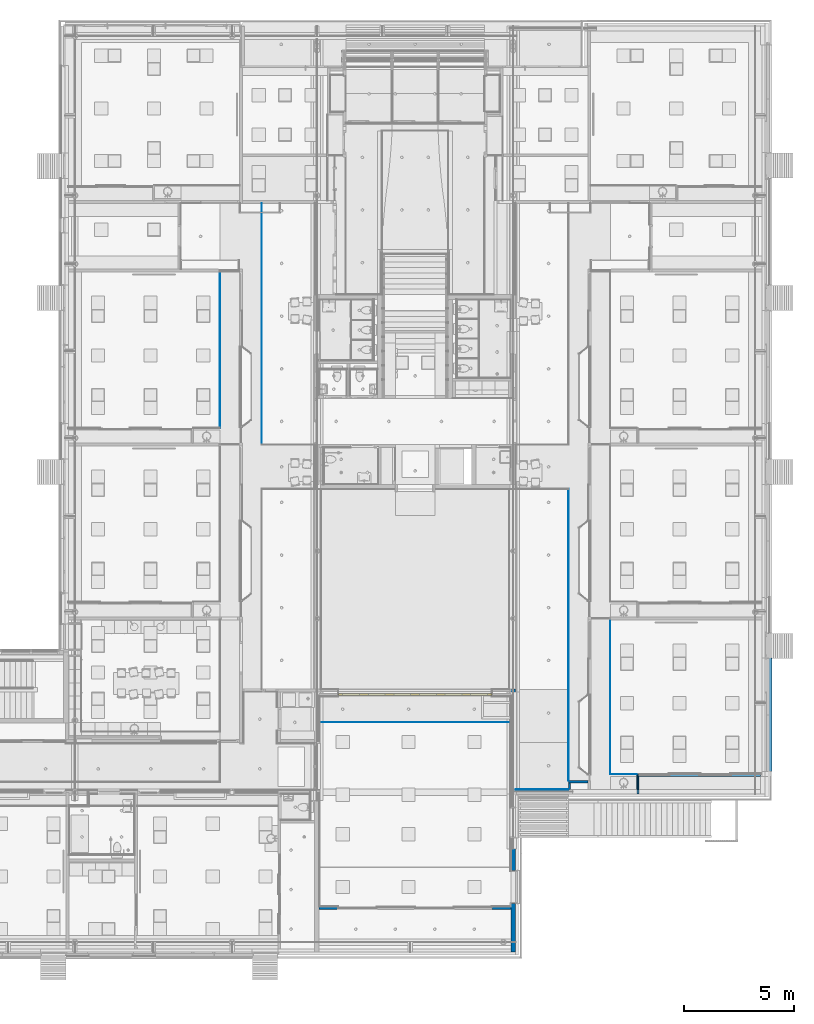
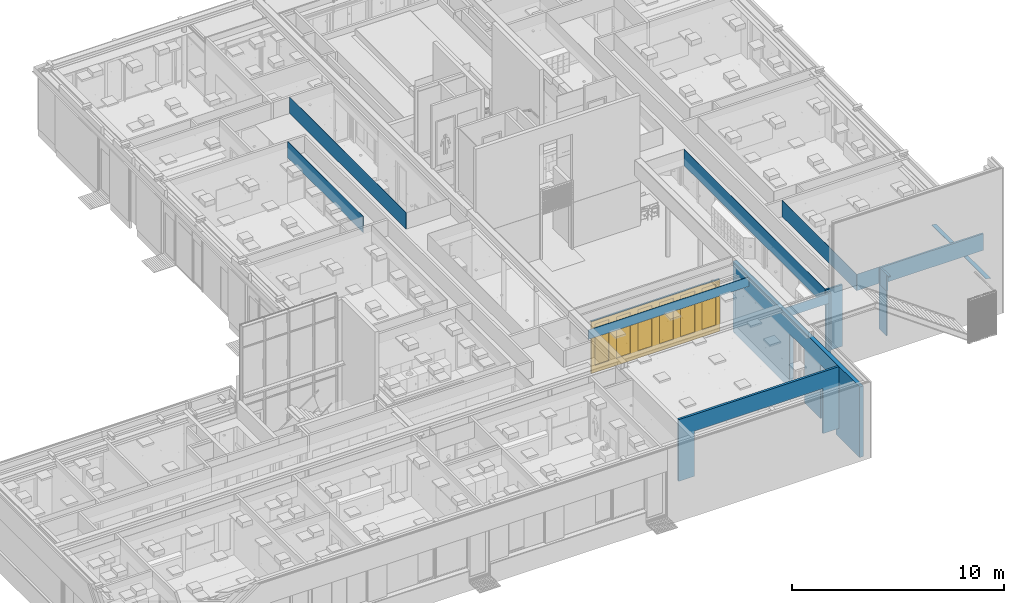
# One storey, part 74 of 347: 16 walls, 1 door, 4 openings.
"""IFC2X3 building model written with IfcOpenShell, lengths in millimetres."""

from ifc_helpers import new_model, entity, si_unit, converted_unit, derived_unit, money_unit, direction, frame, origin_with_axes, place, context, subcontext, project, spatial, open_shell, faceted_brep, surface_model, material, type_object, element, fill, save


model = new_model("IFC2X3")

# Units and contexts
model_context = context("Model", 3, precision=0.01, world=origin_with_axes(), true_north=direction((0.0, 1.0)))
plan_context = context("Plan", 3, precision=0.01, world=origin_with_axes(), true_north=direction((0.0, 1.0)))
body_context = subcontext(model_context, "Body", "Model", "MODEL_VIEW")
ifc_project = project(units=[si_unit("LENGTHUNIT", "METRE", prefix="MILLI"), si_unit("AREAUNIT", "SQUARE_METRE"), si_unit("VOLUMEUNIT", "CUBIC_METRE"), converted_unit("PLANEANGLEUNIT", "DEGREE", entity("IfcPlaneAngleMeasure", 0.0174532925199), si_unit("PLANEANGLEUNIT", "RADIAN"), dimensions=[0, 0, 0, 0, 0, 0, 0]), money_unit("EUR"), converted_unit("TIMEUNIT", "Year", entity("IfcTimeMeasure", 31556926.0), si_unit("TIMEUNIT", "SECOND"), dimensions=[0, 0, 1, 0, 0, 0, 0]), si_unit("MASSUNIT", "GRAM", prefix="KILO"), si_unit("THERMODYNAMICTEMPERATUREUNIT", "DEGREE_CELSIUS"), si_unit("LUMINOUSINTENSITYUNIT", "LUMEN"), si_unit("ENERGYUNIT", "JOULE", prefix="MEGA"), derived_unit("THERMALCONDUCTANCEUNIT", [(si_unit("POWERUNIT", "WATT"), 1), (si_unit("LENGTHUNIT", "METRE"), -1), (si_unit("THERMODYNAMICTEMPERATUREUNIT", "KELVIN"), -1)]), derived_unit("SPECIFICHEATCAPACITYUNIT", [(si_unit("ENERGYUNIT", "JOULE"), 1), (si_unit("MASSUNIT", "GRAM", prefix="KILO"), -1), (si_unit("THERMODYNAMICTEMPERATUREUNIT", "KELVIN"), -1)]), derived_unit("MASSDENSITYUNIT", [(si_unit("MASSUNIT", "GRAM", prefix="KILO"), 1), (si_unit("VOLUMEUNIT", "CUBIC_METRE"), -1)])], contexts=[model_context, plan_context])

# Site, building, storey
site_placement = place(None, origin_with_axes())
site = spatial("IfcSite", under=ifc_project, at=site_placement, Name="Site", CompositionType="ELEMENT")
building_placement = place(site_placement, origin_with_axes())
building = spatial("IfcBuilding", under=site, at=building_placement, Name="Naam gebouw", CompositionType="ELEMENT")
storey_placement = place(building_placement, origin_with_axes())
storey = spatial("IfcBuildingStorey", under=building, at=storey_placement, Name="begane grond", CompositionType="ELEMENT", Elevation=0.0)

# Wall, openings
ifc_material_1 = material(Name="Beton gewapend prefab wand")
wall_type_1 = type_object("IfcWallType", Name="Betonwand 200 210", PredefinedType="NOTDEFINED")
wall_1_placement = place(storey_placement, frame((44445.0012766, 16824.9999902, -510.000001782), z_axis=(0.0, 0.0, 1.0), x_axis=(-8.90627332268e-08, -1.0, 0.0)))
wall_1 = element("IfcWall", 1, at=wall_1_placement, inside=storey, type_object=wall_type_1, material=ifc_material_1, Name="21_GF 125 ECO DGS/2.75.3A", context=body_context, shape_type="Brep", body=[
    faceted_brep([(9759.99043503, 209.999809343, 440.000001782), (9759.99043503, 209.999990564, 3110.0), (8259.99043503, 209.99985697, 3110.0), (8259.99043503, 209.999833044, 440.000001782), (8259.99038294, 209.999799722, 1.22928311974e-06), (6774.99990837, 209.999667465, 1.00828123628e-06), (6774.99997146, 209.999724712, 440.000001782), (6774.99997146, 209.999491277, 3110.0), (5374.99997146, 209.999366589, 3110.0), (5374.99997146, 209.999308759, 440.000001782), (5375.00006081, 209.999366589, 7.99927901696e-07), (-1.87031723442e-05, 210.0, 0.0), (-1.87031723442e-05, 210.0, 510.000001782), (-0.000973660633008, 210.0, 4070.00000178), (11974.9999691, 210.001066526, 4069.99997764), (11974.9999715, 210.001066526, 1.78216530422e-06), (9759.99045873, 209.999757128, 1.45251966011e-06), (9759.99045373, 0.000869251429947, 440.000001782), (9759.99045373, 0.000869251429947, 3110.0), (8259.99045373, 0.000735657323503, 3110.0), (8259.99045373, 0.000735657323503, 440.000001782), (8259.99040165, 0.000735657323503, 1.22928311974e-06), (6774.99992708, 0.000603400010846, 1.00828123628e-06), (6774.99999016, 0.000603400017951, 440.000001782), (6774.99999016, 0.000603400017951, 3110.0), (5374.99999016, 0.000478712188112, 3110.0), (5374.99999016, 0.000478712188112, 440.000001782), (5374.99955095, 0.000478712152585, 7.99927901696e-07), (0.0, 0.0, 0.0), (0.0, 0.0, 510.000001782), (-0.000954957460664, 0.0, 4070.00000178), (11974.9999878, 0.00106652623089, 4069.99997764), (11974.9999902, 0.00106652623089, 1.78216530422e-06), (9759.99047744, 0.000869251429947, 1.45251966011e-06)], [[[0, 1, 2, 3, 4, 5, 6, 7, 8, 9, 10, 11, 12, 13, 14, 15, 16]], [[1, 0, 17, 18]], [[2, 1, 18, 19]], [[3, 2, 19, 20]], [[3, 20, 21, 4]], [[21, 22, 5, 4]], [[6, 5, 22, 23]], [[6, 23, 24, 7]], [[7, 24, 25, 8]], [[8, 25, 26, 9]], [[26, 27, 10, 9]], [[27, 28, 11, 10]], [[29, 30, 13, 12, 11, 28]], [[31, 14, 13, 30]], [[14, 31, 32, 15]], [[16, 15, 32, 33]], [[17, 0, 16, 33]], [[18, 17, 33, 32, 31, 30, 29, 28, 27, 26, 25, 24, 23, 22, 21, 20, 19]]]),
])
opening_1_placement = place(wall_1_placement, frame((6074.99999016, 0.0, 1.78216508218e-06), z_axis=(0.0, 0.0, 1.0), x_axis=(1.0, 0.0, 0.0)))
element("IfcOpeningElement", 2, at=opening_1_placement, cuts=wall_1, Name="32_-", context=body_context, shape_type="Brep", body=[
    faceted_brep([(-699.999962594, -420.000062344, -1.78216508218e-06), (-699.999962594, -420.000062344, 3109.99999822), (-700.000018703, 209.999937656, 3109.99999822), (-700.000018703, 209.999937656, -1.78216508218e-06), (700.000037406, -419.999937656, -1.78216508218e-06), (700.000037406, -419.999937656, 3109.99999822), (699.999981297, 210.000062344, 3109.99999822), (699.999981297, 210.000062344, -1.78216508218e-06)], [[[0, 1, 2, 3]], [[0, 4, 5, 1]], [[1, 5, 6, 2]], [[3, 2, 6, 7]], [[4, 0, 3, 7]], [[5, 4, 7, 6]]]),
])
opening_2_placement = place(wall_1_placement, frame((9009.99045373, 0.0, 1.78216508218e-06), z_axis=(0.0, 0.0, 1.0), x_axis=(1.0, 0.0, 0.0)))
element("IfcOpeningElement", 3, at=opening_2_placement, cuts=wall_1, Name="32_-", context=body_context, shape_type="Brep", body=[
    faceted_brep([(-749.999962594, -420.000066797, -1.78216508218e-06), (-749.999962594, -420.000066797, 3109.99999822), (-750.000018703, 209.999933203, 3109.99999822), (-750.000018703, 209.999933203, -1.78216508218e-06), (750.000037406, -419.999933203, -1.78216508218e-06), (750.000037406, -419.999933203, 3109.99999822), (749.999981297, 210.000066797, 3109.99999822), (749.999981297, 210.000066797, -1.78216508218e-06)], [[[0, 1, 2, 3]], [[0, 4, 5, 1]], [[1, 5, 6, 2]], [[3, 2, 6, 7]], [[4, 0, 3, 7]], [[5, 4, 7, 6]]]),
])

# Wall, opening
ifc_material_2 = material(Name="ALG - LICHTE SCHEIDINGSWAND")
wall_type_2 = type_object("IfcWallType", Name="ALG LSW 125 125", PredefinedType="NOTDEFINED")
wall_2_placement = place(storey_placement, frame((35705.0, 6915.00953644, 0.0), z_axis=(0.0, 0.0, 1.0), x_axis=(1.0, 0.0, 0.0)))
wall_2 = element("IfcWall", 4, at=wall_2_placement, inside=storey, type_object=wall_type_2, material=ifc_material_2, Name="22_GF 125 ECO DGS/2.75.3A", context=body_context, shape_type="Brep", body=[
    faceted_brep([(870.0, 0.0, 2600.0), (870.0, 0.0, 0.0), (0.0, 0.0, 0.0), (0.0, 0.0, 3560.0), (8740.00127657, 0.0, 3560.0), (8740.00127657, 0.0, 0.0), (7870.0, 0.0, 0.0), (7870.0, 0.0, 2600.0), (870.0, -125.0, 2600.0), (870.0, -125.0, 0.0), (0.0, -125.0, 0.0), (0.0, -125.0, 3560.0), (8740.00127657, -125.0, 3560.0), (8740.00127657, -125.0, 0.0), (7870.0, -125.0, 0.0), (7870.0, -125.0, 2600.0)], [[[0, 1, 2, 3, 4, 5, 6, 7]], [[1, 0, 8, 9]], [[1, 9, 10, 2]], [[11, 3, 2, 10]], [[12, 4, 3, 11]], [[4, 12, 13, 5]], [[14, 6, 5, 13]], [[7, 6, 14, 15]], [[0, 7, 15, 8]], [[15, 14, 13, 12, 11, 10, 9, 8]]]),
])
opening_3_placement = place(wall_2_placement, frame((4370.0, 0.0, 0.0), z_axis=(0.0, 0.0, 1.0), x_axis=(1.0, 0.0, 0.0)))
element("IfcOpeningElement", 5, at=opening_3_placement, cuts=wall_2, Name="32_-", context=body_context, shape_type="Brep", body=[
    faceted_brep([(3500.0, 250.0, 0.0), (3500.0, 250.0, 2600.0), (3500.0, -125.0, 2600.0), (3500.0, -125.0, 0.0), (-3500.0, 250.0, 0.0), (-3500.0, 250.0, 2600.0), (-3500.0, -125.0, 2600.0), (-3500.0, -125.0, 0.0)], [[[0, 1, 2, 3]], [[0, 4, 5, 1]], [[1, 5, 6, 2]], [[3, 2, 6, 7]], [[4, 0, 3, 7]], [[5, 4, 7, 6]]]),
])

# Walls
wall_type_3 = type_object("IfcWallType", Name="44 koof 50", PredefinedType="NOTDEFINED")
wall_3_placement = place(storey_placement, frame((35705.0, 15315.0095364, 3000.0), z_axis=(0.0, 0.0, 1.0), x_axis=(1.0, 0.0, 0.0)))
element("IfcWall", 6, at=wall_3_placement, inside=storey, type_object=wall_type_3, material=ifc_material_2, Name="21_22 betonwand", context=body_context, shape_type="Brep", body=[
    faceted_brep([(8740.00114209, 0.0, 560.0), (8740.00124379, 0.0, 12.0), (8740.00124379, 12.0, 12.0), (8740.00114315, 12.0, 560.0), (0.0, 0.0, 560.0), (0.0, 0.0, 12.0), (0.0, 12.0, 12.0), (0.0, 12.0, 560.0)], [[[0, 1, 2, 3]], [[4, 5, 1, 0]], [[5, 6, 2, 1]], [[3, 2, 6, 7]], [[4, 0, 3, 7]], [[7, 6, 5, 4]]]),
])
wall_4_placement = place(storey_placement, frame((50174.9999807, 12960.0000331, 2600.0), z_axis=(0.0, 0.0, 1.0), x_axis=(-1.0, -2.75884485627e-08, 0.0)))
element("IfcWall", 7, at=wall_4_placement, inside=storey, type_object=wall_type_3, material=ifc_material_2, Name="21_22 betonwand", context=body_context, shape_type="Brep", body=[
    faceted_brep([(3.31056071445e-07, 12.0, 960.0), (2.09095674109e-06, 12.0, 12.0), (2.09096384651e-06, 0.0, 12.0), (0.0, 0.0, 960.0), (1212.00000036, 11.9999665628, 960.0), (1212.00000036, 11.9999665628, 12.0), (1212.0, -3.34371996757e-05, 12.0), (1212.0, -3.34371996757e-05, 960.0)], [[[0, 1, 2, 3]], [[4, 5, 1, 0]], [[6, 2, 1, 5]], [[2, 6, 7, 3]], [[7, 4, 0, 3]], [[7, 6, 5, 4]]]),
])
wall_5_placement = place(storey_placement, frame((33095.0, 27974.9998613, 2600.0), z_axis=(0.0, 0.0, 1.0), x_axis=(0.0, 1.0, 0.0)))
element("IfcWall", 8, at=wall_5_placement, inside=storey, type_object=wall_type_3, material=ifc_material_2, Name="21_22 betonwand", context=body_context, shape_type="Brep", body=[
    faceted_brep([(-12.0, 0.0, 960.0), (-12.0, 0.0, 12.0), (10987.5001387, 0.0, 12.0), (10987.5001387, 0.0, 960.0), (-12.0, 12.0, 960.0), (-12.0, 12.0, 12.0), (10987.5001387, 12.0, 12.0), (10987.5001387, 12.0, 960.0)], [[[0, 1, 2, 3]], [[4, 5, 1, 0]], [[5, 6, 2, 1]], [[3, 2, 6, 7]], [[0, 3, 7, 4]], [[7, 6, 5, 4]]]),
])
wall_6_placement = place(storey_placement, frame((47055.0, 25940.0001323, 2600.0), z_axis=(0.0, 0.0, 1.0), x_axis=(0.0, -1.0, 0.0)))
element("IfcWall", 9, at=wall_6_placement, inside=storey, type_object=wall_type_3, material=ifc_material_2, Name="21_22 betonwand", context=body_context, shape_type="Brep", body=[
    faceted_brep([(13280.0000572, 12.0, 960.0), (13280.0000572, 12.0, 12.0), (-12.0, 12.0, 12.0), (-12.0, 12.0, 960.0), (13280.0000572, 0.0, 960.0), (13280.0000572, 0.0, 12.0), (-12.0, 0.0, 12.0), (-12.0, 0.0, 960.0)], [[[0, 1, 2, 3]], [[4, 5, 1, 0]], [[6, 2, 1, 5]], [[3, 2, 6, 7]], [[3, 7, 4, 0]], [[6, 5, 4, 7]]]),
])
wall_7_placement = place(storey_placement, frame((48974.9999807, 12960.0, 2600.0), z_axis=(0.0, 0.0, 1.0), x_axis=(2.74573556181e-09, 1.0, 0.0)))
element("IfcWall", 10, at=wall_7_placement, inside=storey, type_object=wall_type_3, material=ifc_material_2, Name="21_22 betonwand", context=body_context, shape_type="Brep", body=[
    faceted_brep([(0.0, 0.0, 960.0), (0.0, 0.0, 12.0), (7027.5, 3.2122926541e-07, 12.0), (7027.5, 1.92956548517e-05, 960.0), (-3.6401104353e-07, 12.0, 960.0), (-3.6401104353e-07, 12.0, 12.0), (7027.49999997, 12.0000192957, 12.0), (7027.49999997, 12.0000192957, 960.0)], [[[0, 1, 2, 3]], [[4, 5, 1, 0]], [[5, 6, 2, 1]], [[3, 2, 6, 7]], [[0, 3, 7, 4]], [[7, 6, 5, 4]]]),
])
wall_8_placement = place(storey_placement, frame((31175.0, 28737.5, 2600.0), z_axis=(0.0, 0.0, 1.0), x_axis=(0.0, 1.0, 0.0)))
element("IfcWall", 11, at=wall_8_placement, inside=storey, type_object=wall_type_3, material=ifc_material_2, Name="21_22 betonwand", context=body_context, shape_type="Brep", body=[
    faceted_brep([(-12.0, -12.0, 960.0), (-12.0, -12.0, 12.0), (7100.0, -12.0, 12.0), (7100.0, -12.0, 960.0), (-12.0, 0.0, 960.0), (-12.0, 0.0, 12.0), (7100.0, 0.0, 12.0), (7100.0, 0.0, 960.0)], [[[0, 1, 2, 3]], [[4, 5, 1, 0]], [[6, 2, 1, 5]], [[3, 2, 6, 7]], [[0, 3, 7, 4]], [[6, 5, 4, 7]]]),
])

# Wall, opening, door
wall_type_4 = type_object("IfcWallType", Name="ALG - LICHTE SCHEIDINGSWAND 105", PredefinedType="NOTDEFINED")
wall_9_placement = place(storey_placement, frame((43575.0, 16535.0, 0.0), z_axis=(0.0, 0.0, 1.0), x_axis=(-1.0, 0.0, 0.0)))
wall_9 = element("IfcWall", 12, at=wall_9_placement, inside=storey, type_object=wall_type_4, material=ifc_material_2, Name="21_GF 125 ECO DGS/2.75.3A", context=body_context, shape_type="Brep", body=[
    faceted_brep([(0.0, 0.0, 2990.0), (0.0, -105.0, 2990.0), (0.0, -105.0, 3000.0), (0.0, 0.0, 3000.0), (7000.0, -105.0, 2990.0), (7000.0, 0.0, 2990.0), (7000.0, -105.0, 3000.0), (7000.0, 0.0, 3000.0)], [[[0, 1, 2, 3]], [[4, 1, 0, 5]], [[1, 4, 6, 2]], [[6, 7, 3, 2]], [[5, 0, 3, 7]], [[4, 5, 7, 6]]]),
])
opening_4_placement = place(wall_9_placement, frame((3500.0, 0.0, 0.0), z_axis=(0.0, 0.0, 1.0), x_axis=(1.0, 0.0, 0.0)))
opening_4 = element("IfcOpeningElement", 13, at=opening_4_placement, cuts=wall_9, Name="32_08.01", context=body_context, shape_type="Brep", body=[
    faceted_brep([(-3500.0, 210.0, 2990.0), (-3500.0, 210.0, 0.0), (-3500.0, -105.0, 0.0), (-3500.0, -105.0, 2990.0), (3500.0, 210.0, 2990.0), (3500.0, 210.0, 0.0), (3500.0, -105.0, 0.0), (3500.0, -105.0, 2990.0)], [[[0, 1, 2, 3]], [[0, 4, 5, 1]], [[1, 5, 6, 2]], [[3, 2, 6, 7]], [[4, 0, 3, 7]], [[5, 4, 7, 6]]]),
])
door_style = type_object("IfcDoorStyle", Name="DV1 25", ConstructionType="NOTDEFINED", OperationType="FOLDING_TO_LEFT", ParameterTakesPrecedence=False, Sizeable=False)
door_placement = place(opening_4_placement, frame((-3500.0, 0.0, 0.0), z_axis=(0.0, 0.0, 1.0), x_axis=(1.0, 0.0, 0.0)))
door = element("IfcDoor", 14, at=door_placement, inside=storey, type_object=door_style, Name="32_08.01", ObjectType="DOOR", OverallHeight=2990.0, OverallWidth=7000.0, context=body_context, shape_type="SurfaceModel", body=[
    faceted_brep([(7000.0, 0.0, 400.0), (7000.0, -105.0, 400.0), (6800.0, -105.0, 400.0), (6800.0, 0.0, 400.0), (7000.0, 0.0, 2790.0), (7000.0, -105.0, 2790.0), (6800.0, -105.0, 2790.0), (6800.0, 0.0, 2790.0)], [[[0, 1, 2, 3]], [[4, 5, 1, 0]], [[1, 5, 6, 2]], [[3, 2, 6, 7]], [[0, 3, 7, 4]], [[7, 6, 5, 4]]]),
    faceted_brep([(5833.33333333, 0.0, 400.0), (5833.33333333, -105.0, 400.0), (5833.33333333, -105.0, 2790.0), (5833.33333333, 0.0, 2790.0), (6033.33333333, 0.0, 400.0), (6033.33333333, -105.0, 400.0), (6033.33333333, -105.0, 2790.0), (6033.33333333, 0.0, 2790.0)], [[[0, 1, 2, 3]], [[4, 5, 1, 0]], [[1, 5, 6, 2]], [[3, 2, 6, 7]], [[0, 3, 7, 4]], [[7, 6, 5, 4]]]),
    faceted_brep([(7000.0, 0.0, 0.0), (7000.0, -105.0, 0.0), (5833.33333333, -105.0, 0.0), (5833.33333333, 0.0, 0.0), (7000.0, 0.0, 400.0), (7000.0, -105.0, 400.0), (6800.0, -105.0, 400.0), (6033.33333333, -105.0, 400.0), (5833.33333333, -105.0, 400.0), (5833.33333333, 0.0, 400.0), (6033.33333333, 0.0, 400.0), (6800.0, 0.0, 400.0)], [[[0, 1, 2, 3]], [[4, 5, 1, 0]], [[1, 5, 6, 7, 8, 2]], [[3, 2, 8, 9]], [[0, 3, 9, 10, 11, 4]], [[11, 6, 5, 4]], [[10, 7, 6, 11]], [[9, 8, 7, 10]]]),
    faceted_brep([(7000.0, 0.0, 2990.0), (7000.0, -105.0, 2990.0), (7000.0, -105.0, 2790.0), (7000.0, 0.0, 2790.0), (5833.33333333, 0.0, 2990.0), (5833.33333333, -105.0, 2990.0), (5833.33333333, -105.0, 2790.0), (6033.33333333, -105.0, 2790.0), (6800.0, -105.0, 2790.0), (6800.0, 0.0, 2790.0), (6033.33333333, 0.0, 2790.0), (5833.33333333, 0.0, 2790.0)], [[[0, 1, 2, 3]], [[4, 5, 1, 0]], [[1, 5, 6, 7, 8, 2]], [[3, 2, 8, 9]], [[0, 3, 9, 10, 11, 4]], [[11, 6, 5, 4]], [[10, 7, 6, 11]], [[9, 8, 7, 10]]]),
    surface_model("IfcShellBasedSurfaceModel", [(6033.33333333, -46.5, 400.0), (6033.33333333, -46.5, 2790.0), (6800.0, -46.5, 2790.0), (6800.0, -46.5, 400.0)], [open_shell([[[0, 1, 2, 3]]])]),
    surface_model("IfcShellBasedSurfaceModel", [(6033.33333333, -58.5, 400.0), (6800.0, -58.5, 400.0), (6800.0, -58.5, 2790.0), (6033.33333333, -58.5, 2790.0)], [open_shell([[[0, 1, 2, 3]]])]),
    faceted_brep([(5833.33333333, 0.0, 400.0), (5833.33333333, -105.0, 400.0), (5633.33333333, -105.0, 400.0), (5633.33333333, 0.0, 400.0), (5833.33333333, 0.0, 2790.0), (5833.33333333, -105.0, 2790.0), (5633.33333333, -105.0, 2790.0), (5633.33333333, 0.0, 2790.0)], [[[0, 1, 2, 3]], [[4, 5, 1, 0]], [[1, 5, 6, 2]], [[3, 2, 6, 7]], [[0, 3, 7, 4]], [[7, 6, 5, 4]]]),
    faceted_brep([(4666.66666667, 0.0, 400.0), (4666.66666667, -105.0, 400.0), (4666.66666667, -105.0, 2790.0), (4666.66666667, 0.0, 2790.0), (4866.66666667, 0.0, 400.0), (4866.66666667, -105.0, 400.0), (4866.66666667, -105.0, 2790.0), (4866.66666667, 0.0, 2790.0)], [[[0, 1, 2, 3]], [[4, 5, 1, 0]], [[1, 5, 6, 2]], [[3, 2, 6, 7]], [[0, 3, 7, 4]], [[7, 6, 5, 4]]]),
    faceted_brep([(5833.33333333, 0.0, 0.0), (5833.33333333, -105.0, 0.0), (4666.66666667, -105.0, 0.0), (4666.66666667, 0.0, 0.0), (5833.33333333, 0.0, 400.0), (5833.33333333, -105.0, 400.0), (5633.33333333, -105.0, 400.0), (4866.66666667, -105.0, 400.0), (4666.66666667, -105.0, 400.0), (4666.66666667, 0.0, 400.0), (4866.66666667, 0.0, 400.0), (5633.33333333, 0.0, 400.0)], [[[0, 1, 2, 3]], [[4, 5, 1, 0]], [[1, 5, 6, 7, 8, 2]], [[3, 2, 8, 9]], [[0, 3, 9, 10, 11, 4]], [[11, 6, 5, 4]], [[10, 7, 6, 11]], [[9, 8, 7, 10]]]),
    faceted_brep([(5833.33333333, 0.0, 2990.0), (5833.33333333, -105.0, 2990.0), (5833.33333333, -105.0, 2790.0), (5833.33333333, 0.0, 2790.0), (4666.66666667, 0.0, 2990.0), (4666.66666667, -105.0, 2990.0), (4666.66666667, -105.0, 2790.0), (4866.66666667, -105.0, 2790.0), (5633.33333333, -105.0, 2790.0), (5633.33333333, 0.0, 2790.0), (4866.66666667, 0.0, 2790.0), (4666.66666667, 0.0, 2790.0)], [[[0, 1, 2, 3]], [[4, 5, 1, 0]], [[1, 5, 6, 7, 8, 2]], [[3, 2, 8, 9]], [[0, 3, 9, 10, 11, 4]], [[11, 6, 5, 4]], [[10, 7, 6, 11]], [[9, 8, 7, 10]]]),
    surface_model("IfcShellBasedSurfaceModel", [(4866.66666667, -46.5, 400.0), (4866.66666667, -46.5, 2790.0), (5633.33333333, -46.5, 2790.0), (5633.33333333, -46.5, 400.0)], [open_shell([[[0, 1, 2, 3]]])]),
    surface_model("IfcShellBasedSurfaceModel", [(4866.66666667, -58.5, 400.0), (5633.33333333, -58.5, 400.0), (5633.33333333, -58.5, 2790.0), (4866.66666667, -58.5, 2790.0)], [open_shell([[[0, 1, 2, 3]]])]),
    faceted_brep([(4666.66666667, 0.0, 400.0), (4666.66666667, -105.0, 400.0), (4466.66666667, -105.0, 400.0), (4466.66666667, 0.0, 400.0), (4666.66666667, 0.0, 2790.0), (4666.66666667, -105.0, 2790.0), (4466.66666667, -105.0, 2790.0), (4466.66666667, 0.0, 2790.0)], [[[0, 1, 2, 3]], [[4, 5, 1, 0]], [[1, 5, 6, 2]], [[3, 2, 6, 7]], [[0, 3, 7, 4]], [[7, 6, 5, 4]]]),
    faceted_brep([(3500.0, 0.0, 400.0), (3500.0, -105.0, 400.0), (3500.0, -105.0, 2790.0), (3500.0, 0.0, 2790.0), (3700.0, 0.0, 400.0), (3700.0, -105.0, 400.0), (3700.0, -105.0, 2790.0), (3700.0, 0.0, 2790.0)], [[[0, 1, 2, 3]], [[4, 5, 1, 0]], [[1, 5, 6, 2]], [[3, 2, 6, 7]], [[0, 3, 7, 4]], [[7, 6, 5, 4]]]),
    faceted_brep([(4666.66666667, 0.0, 0.0), (4666.66666667, -105.0, 0.0), (3500.0, -105.0, 0.0), (3500.0, 0.0, 0.0), (4666.66666667, 0.0, 400.0), (4666.66666667, -105.0, 400.0), (4466.66666667, -105.0, 400.0), (3700.0, -105.0, 400.0), (3500.0, -105.0, 400.0), (3500.0, 0.0, 400.0), (3700.0, 0.0, 400.0), (4466.66666667, 0.0, 400.0)], [[[0, 1, 2, 3]], [[4, 5, 1, 0]], [[1, 5, 6, 7, 8, 2]], [[3, 2, 8, 9]], [[0, 3, 9, 10, 11, 4]], [[11, 6, 5, 4]], [[10, 7, 6, 11]], [[9, 8, 7, 10]]]),
    faceted_brep([(4666.66666667, 0.0, 2990.0), (4666.66666667, -105.0, 2990.0), (4666.66666667, -105.0, 2790.0), (4666.66666667, 0.0, 2790.0), (3500.0, 0.0, 2990.0), (3500.0, -105.0, 2990.0), (3500.0, -105.0, 2790.0), (3700.0, -105.0, 2790.0), (4466.66666667, -105.0, 2790.0), (4466.66666667, 0.0, 2790.0), (3700.0, 0.0, 2790.0), (3500.0, 0.0, 2790.0)], [[[0, 1, 2, 3]], [[4, 5, 1, 0]], [[1, 5, 6, 7, 8, 2]], [[3, 2, 8, 9]], [[0, 3, 9, 10, 11, 4]], [[11, 6, 5, 4]], [[10, 7, 6, 11]], [[9, 8, 7, 10]]]),
    surface_model("IfcShellBasedSurfaceModel", [(3700.0, -46.5, 400.0), (3700.0, -46.5, 2790.0), (4466.66666667, -46.5, 2790.0), (4466.66666667, -46.5, 400.0)], [open_shell([[[0, 1, 2, 3]]])]),
    surface_model("IfcShellBasedSurfaceModel", [(3700.0, -58.5, 400.0), (4466.66666667, -58.5, 400.0), (4466.66666667, -58.5, 2790.0), (3700.0, -58.5, 2790.0)], [open_shell([[[0, 1, 2, 3]]])]),
    faceted_brep([(3500.0, 0.0, 400.0), (3500.0, -105.0, 400.0), (3300.0, -105.0, 400.0), (3300.0, 0.0, 400.0), (3500.0, 0.0, 2790.0), (3500.0, -105.0, 2790.0), (3300.0, -105.0, 2790.0), (3300.0, 0.0, 2790.0)], [[[0, 1, 2, 3]], [[4, 5, 1, 0]], [[1, 5, 6, 2]], [[3, 2, 6, 7]], [[0, 3, 7, 4]], [[7, 6, 5, 4]]]),
    faceted_brep([(2333.33333333, 0.0, 400.0), (2333.33333333, -105.0, 400.0), (2333.33333333, -105.0, 2790.0), (2333.33333333, 0.0, 2790.0), (2533.33333333, 0.0, 400.0), (2533.33333333, -105.0, 400.0), (2533.33333333, -105.0, 2790.0), (2533.33333333, 0.0, 2790.0)], [[[0, 1, 2, 3]], [[4, 5, 1, 0]], [[1, 5, 6, 2]], [[3, 2, 6, 7]], [[0, 3, 7, 4]], [[7, 6, 5, 4]]]),
    faceted_brep([(3500.0, 0.0, 0.0), (3500.0, -105.0, 0.0), (2333.33333333, -105.0, 0.0), (2333.33333333, 0.0, 0.0), (3500.0, 0.0, 400.0), (3500.0, -105.0, 400.0), (3300.0, -105.0, 400.0), (2533.33333333, -105.0, 400.0), (2333.33333333, -105.0, 400.0), (2333.33333333, 0.0, 400.0), (2533.33333333, 0.0, 400.0), (3300.0, 0.0, 400.0)], [[[0, 1, 2, 3]], [[4, 5, 1, 0]], [[1, 5, 6, 7, 8, 2]], [[3, 2, 8, 9]], [[0, 3, 9, 10, 11, 4]], [[11, 6, 5, 4]], [[10, 7, 6, 11]], [[9, 8, 7, 10]]]),
    faceted_brep([(3500.0, 0.0, 2990.0), (3500.0, -105.0, 2990.0), (3500.0, -105.0, 2790.0), (3500.0, 0.0, 2790.0), (2333.33333333, 0.0, 2990.0), (2333.33333333, -105.0, 2990.0), (2333.33333333, -105.0, 2790.0), (2533.33333333, -105.0, 2790.0), (3300.0, -105.0, 2790.0), (3300.0, 0.0, 2790.0), (2533.33333333, 0.0, 2790.0), (2333.33333333, 0.0, 2790.0)], [[[0, 1, 2, 3]], [[4, 5, 1, 0]], [[1, 5, 6, 7, 8, 2]], [[3, 2, 8, 9]], [[0, 3, 9, 10, 11, 4]], [[11, 6, 5, 4]], [[10, 7, 6, 11]], [[9, 8, 7, 10]]]),
    surface_model("IfcShellBasedSurfaceModel", [(2533.33333333, -46.5, 400.0), (2533.33333333, -46.5, 2790.0), (3300.0, -46.5, 2790.0), (3300.0, -46.5, 400.0)], [open_shell([[[0, 1, 2, 3]]])]),
    surface_model("IfcShellBasedSurfaceModel", [(2533.33333333, -58.5, 400.0), (3300.0, -58.5, 400.0), (3300.0, -58.5, 2790.0), (2533.33333333, -58.5, 2790.0)], [open_shell([[[0, 1, 2, 3]]])]),
    faceted_brep([(2333.33333333, 0.0, 400.0), (2333.33333333, -105.0, 400.0), (2133.33333333, -105.0, 400.0), (2133.33333333, 0.0, 400.0), (2333.33333333, 0.0, 2790.0), (2333.33333333, -105.0, 2790.0), (2133.33333333, -105.0, 2790.0), (2133.33333333, 0.0, 2790.0)], [[[0, 1, 2, 3]], [[4, 5, 1, 0]], [[1, 5, 6, 2]], [[3, 2, 6, 7]], [[0, 3, 7, 4]], [[7, 6, 5, 4]]]),
    faceted_brep([(1166.66666667, 0.0, 400.0), (1166.66666667, -105.0, 400.0), (1166.66666667, -105.0, 2790.0), (1166.66666667, 0.0, 2790.0), (1366.66666667, 0.0, 400.0), (1366.66666667, -105.0, 400.0), (1366.66666667, -105.0, 2790.0), (1366.66666667, 0.0, 2790.0)], [[[0, 1, 2, 3]], [[4, 5, 1, 0]], [[1, 5, 6, 2]], [[3, 2, 6, 7]], [[0, 3, 7, 4]], [[7, 6, 5, 4]]]),
    faceted_brep([(2333.33333333, 0.0, 0.0), (2333.33333333, -105.0, 0.0), (1166.66666667, -105.0, 0.0), (1166.66666667, 0.0, 0.0), (2333.33333333, 0.0, 400.0), (2333.33333333, -105.0, 400.0), (2133.33333333, -105.0, 400.0), (1366.66666667, -105.0, 400.0), (1166.66666667, -105.0, 400.0), (1166.66666667, 0.0, 400.0), (1366.66666667, 0.0, 400.0), (2133.33333333, 0.0, 400.0)], [[[0, 1, 2, 3]], [[4, 5, 1, 0]], [[1, 5, 6, 7, 8, 2]], [[3, 2, 8, 9]], [[0, 3, 9, 10, 11, 4]], [[11, 6, 5, 4]], [[10, 7, 6, 11]], [[9, 8, 7, 10]]]),
    faceted_brep([(2333.33333333, 0.0, 2990.0), (2333.33333333, -105.0, 2990.0), (2333.33333333, -105.0, 2790.0), (2333.33333333, 0.0, 2790.0), (1166.66666667, 0.0, 2990.0), (1166.66666667, -105.0, 2990.0), (1166.66666667, -105.0, 2790.0), (1366.66666667, -105.0, 2790.0), (2133.33333333, -105.0, 2790.0), (2133.33333333, 0.0, 2790.0), (1366.66666667, 0.0, 2790.0), (1166.66666667, 0.0, 2790.0)], [[[0, 1, 2, 3]], [[4, 5, 1, 0]], [[1, 5, 6, 7, 8, 2]], [[3, 2, 8, 9]], [[0, 3, 9, 10, 11, 4]], [[11, 6, 5, 4]], [[10, 7, 6, 11]], [[9, 8, 7, 10]]]),
    surface_model("IfcShellBasedSurfaceModel", [(1366.66666667, -46.5, 400.0), (1366.66666667, -46.5, 2790.0), (2133.33333333, -46.5, 2790.0), (2133.33333333, -46.5, 400.0)], [open_shell([[[0, 1, 2, 3]]])]),
    surface_model("IfcShellBasedSurfaceModel", [(1366.66666667, -58.5, 400.0), (2133.33333333, -58.5, 400.0), (2133.33333333, -58.5, 2790.0), (1366.66666667, -58.5, 2790.0)], [open_shell([[[0, 1, 2, 3]]])]),
    faceted_brep([(1166.66666667, 0.0, 400.0), (1166.66666667, -105.0, 400.0), (966.666666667, -105.0, 400.0), (966.666666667, 0.0, 400.0), (1166.66666667, 0.0, 2790.0), (1166.66666667, -105.0, 2790.0), (966.666666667, -105.0, 2790.0), (966.666666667, 0.0, 2790.0)], [[[0, 1, 2, 3]], [[4, 5, 1, 0]], [[1, 5, 6, 2]], [[3, 2, 6, 7]], [[0, 3, 7, 4]], [[7, 6, 5, 4]]]),
    faceted_brep([(0.0, 0.0, 400.0), (0.0, -105.0, 400.0), (0.0, -105.0, 2790.0), (0.0, 0.0, 2790.0), (200.0, 0.0, 400.0), (200.0, -105.0, 400.0), (200.0, -105.0, 2790.0), (200.0, 0.0, 2790.0)], [[[0, 1, 2, 3]], [[4, 5, 1, 0]], [[1, 5, 6, 2]], [[3, 2, 6, 7]], [[0, 3, 7, 4]], [[7, 6, 5, 4]]]),
    faceted_brep([(1166.66666667, 0.0, 0.0), (1166.66666667, -105.0, 0.0), (0.0, -105.0, 0.0), (0.0, 0.0, 0.0), (1166.66666667, 0.0, 400.0), (1166.66666667, -105.0, 400.0), (966.666666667, -105.0, 400.0), (200.0, -105.0, 400.0), (0.0, -105.0, 400.0), (0.0, 0.0, 400.0), (200.0, 0.0, 400.0), (966.666666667, 0.0, 400.0)], [[[0, 1, 2, 3]], [[4, 5, 1, 0]], [[1, 5, 6, 7, 8, 2]], [[3, 2, 8, 9]], [[0, 3, 9, 10, 11, 4]], [[11, 6, 5, 4]], [[10, 7, 6, 11]], [[9, 8, 7, 10]]]),
    faceted_brep([(1166.66666667, 0.0, 2990.0), (1166.66666667, -105.0, 2990.0), (1166.66666667, -105.0, 2790.0), (1166.66666667, 0.0, 2790.0), (0.0, 0.0, 2990.0), (0.0, -105.0, 2990.0), (0.0, -105.0, 2790.0), (200.0, -105.0, 2790.0), (966.666666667, -105.0, 2790.0), (966.666666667, 0.0, 2790.0), (200.0, 0.0, 2790.0), (0.0, 0.0, 2790.0)], [[[0, 1, 2, 3]], [[4, 5, 1, 0]], [[1, 5, 6, 7, 8, 2]], [[3, 2, 8, 9]], [[0, 3, 9, 10, 11, 4]], [[11, 6, 5, 4]], [[10, 7, 6, 11]], [[9, 8, 7, 10]]]),
    surface_model("IfcShellBasedSurfaceModel", [(200.0, -46.5, 400.0), (200.0, -46.5, 2790.0), (966.666666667, -46.5, 2790.0), (966.666666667, -46.5, 400.0)], [open_shell([[[0, 1, 2, 3]]])]),
    surface_model("IfcShellBasedSurfaceModel", [(200.0, -58.5, 400.0), (966.666666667, -58.5, 400.0), (966.666666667, -58.5, 2790.0), (200.0, -58.5, 2790.0)], [open_shell([[[0, 1, 2, 3]]])]),
])
fill(opening_4, door)

# Walls
ifc_material_3 = material(Name="32 schuideur")
wall_type_5 = type_object("IfcWallType", Name="32 schuideur 60", PredefinedType="NOTDEFINED")
wall_10_placement = place(storey_placement, frame((50234.9999807, 12200.0000472, 0.0), z_axis=(0.0, 0.0, 1.0), x_axis=(0.0, 1.0, 0.0)))
element("IfcWall", 15, at=wall_10_placement, inside=storey, type_object=wall_type_5, material=ifc_material_3, Name="22_GF 100 RD/2.50.2.", context=body_context, shape_type="Brep", body=[
    faceted_brep([(760.000027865, 60.0, 2600.0), (59.9999722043, 60.0, 2600.0), (59.9999722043, 0.0, 2600.0), (760.000027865, 0.0, 2600.0), (760.000027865, 60.0, 0.0), (59.9999722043, 60.0, 0.0), (59.9999722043, 0.0, 0.0), (760.000027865, 0.0, 0.0)], [[[0, 1, 2, 3]], [[4, 5, 1, 0]], [[5, 6, 2, 1]], [[3, 2, 6, 7]], [[0, 3, 7, 4]], [[7, 6, 5, 4]]]),
])
ifc_material_4 = material(Name="Metaal - Aluminium beige")
wall_type_6 = type_object("IfcWallType", Name="32 waterslag (negge 210mm) 252 x 90", PredefinedType="NOTDEFINED")
wall_11_placement = place(storey_placement, frame((56097.0000264, 13087.5, 720.0), z_axis=(0.0, 0.0, 1.0), x_axis=(0.0, 1.0, 0.0)))
element("IfcWall", 16, at=wall_11_placement, inside=storey, type_object=wall_type_6, material=ifc_material_4, Name="21_31 waterslag", context=body_context, shape_type="Brep", body=[
    faceted_brep([(0.0, 13.9991300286, -16.8402038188), (5149.99999949, 13.9991300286, -16.8402038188), (5149.99999949, -235.999895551, -36.8748605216), (0.0, -235.999895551, -36.8748605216), (0.0, 13.9991300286, 10.0000166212), (5149.99999949, 13.9991300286, 10.0000166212), (5149.99999949, 12.0001235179, 10.0000166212), (5149.99999949, 11.9992673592, -15.0003939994), (5149.99999949, -237.999900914, -35.0099705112), (5149.99999949, -237.999900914, -80.009969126), (5149.99999949, -222.999900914, -80.009969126), (5149.99999949, -222.999900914, -78.0099675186), (5149.99999949, -235.999895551, -78.0099675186), (0.0, -235.999895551, -78.0099675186), (0.0, -222.999900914, -78.0099675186), (0.0, -222.999900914, -80.009969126), (0.0, -237.999900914, -80.009969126), (0.0, -237.999900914, -35.0099705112), (0.0, 11.9992673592, -15.0003939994), (0.0, 12.0001235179, 10.0000166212)], [[[0, 1, 2, 3]], [[4, 5, 1, 0]], [[2, 1, 5, 6, 7, 8, 9, 10, 11, 12]], [[3, 2, 12, 13]], [[4, 0, 3, 13, 14, 15, 16, 17, 18, 19]], [[19, 6, 5, 4]], [[18, 7, 6, 19]], [[17, 8, 7, 18]], [[16, 9, 8, 17]], [[15, 10, 9, 16]], [[14, 11, 10, 15]], [[13, 12, 11, 14]]]),
])
wall_type_7 = type_object("IfcWallType", Name="ALG LSW 100 voorzetwand 100", PredefinedType="NOTDEFINED")
wall_12_placement = place(storey_placement, frame((48075.0, 12660.0000751, 0.0), z_axis=(0.0, 0.0, 1.0), x_axis=(-1.0, 0.0, 0.0)))
element("IfcWall", 17, at=wall_12_placement, inside=storey, type_object=wall_type_7, material=ifc_material_2, Name="22_GF 125 ECO DGS/2.75.2A", context=body_context, shape_type="Brep", body=[
    faceted_brep([(125.0, 0.0, 0.0), (1020.0, 0.0, 0.0), (1020.0, 0.0, 3560.0), (125.0, 0.0, 3560.0), (125.0, 100.0, 0.0), (1020.0, 100.0, 0.0), (1020.0, 100.0, 3560.0), (125.0, 100.0, 3560.0)], [[[0, 1, 2, 3]], [[0, 4, 5, 1]], [[1, 5, 6, 2]], [[7, 3, 2, 6]], [[7, 4, 0, 3]], [[4, 7, 6, 5]]]),
])
wall_13_placement = place(storey_placement, frame((47055.0, 12660.0000751, 0.0), z_axis=(0.0, 0.0, 1.0), x_axis=(0.0, -1.0, 0.0)))
element("IfcWall", 18, at=wall_13_placement, inside=storey, type_object=wall_type_7, material=ifc_material_2, Name="22_GF 125 ECO DGS/2.75.2A", context=body_context, shape_type="Brep", body=[
    faceted_brep([(100.0, 100.0, 0.0), (100.0, 100.0, 3560.0), (400.000000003, 100.0, 3560.0), (400.000000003, 100.0, 0.0), (100.0, 0.0, 0.0), (100.0, 0.0, 3560.0), (400.000000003, 0.0, 3560.0), (400.000000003, 0.0, 0.0)], [[[0, 1, 2, 3]], [[4, 5, 1, 0]], [[2, 1, 5, 6]], [[2, 6, 7, 3]], [[7, 4, 0, 3]], [[6, 5, 4, 7]]]),
])
wall_type_8 = type_object("IfcWallType", Name="ALG LSW 100 kast 100", PredefinedType="NOTDEFINED")
wall_14_placement = place(storey_placement, frame((50174.9999807, 12960.0000331, 2600.0), z_axis=(0.0, 0.0, 1.0), x_axis=(1.0, 0.0, 0.0)))
element("IfcWall", 19, at=wall_14_placement, inside=storey, type_object=wall_type_8, material=ifc_material_2, Name="22_GF 125 ECO DGS/2.75.2A", context=body_context, shape_type="Brep", body=[
    faceted_brep([(0.0, 0.0, 960.0), (0.0, -100.0, 960.0), (5639.0, -100.0, 960.0), (5639.0, 0.0, 960.0), (0.0, 0.0, 0.0), (0.0, -100.0, 0.0), (5639.0, -100.0, 0.0), (5639.0, 0.0, 0.0)], [[[0, 1, 2, 3]], [[4, 5, 1, 0]], [[1, 5, 6, 2]], [[7, 3, 2, 6]], [[4, 0, 3, 7]], [[5, 4, 7, 6]]]),
])
wall_15_placement = place(storey_placement, frame((50174.9999807, 12200.0000472, 2600.0), z_axis=(0.0, 0.0, 1.0), x_axis=(0.0, 1.0, 0.0)))
element("IfcWall", 20, at=wall_15_placement, inside=storey, type_object=wall_type_8, material=ifc_material_2, Name="22_GF 125 ECO DGS/2.75.2A", context=body_context, shape_type="Brep", body=[
    faceted_brep([(659.999985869, 0.0, 960.0), (-150.000011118, 0.0, 960.0), (-150.000011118, -100.0, 960.0), (659.999985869, -100.0, 960.0), (59.9999722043, 0.0, 899.999999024), (-150.000011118, 0.0, 899.999999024), (659.999985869, 0.0, 0.0), (59.9999722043, 0.0, 0.0), (-150.000011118, -100.0, 899.999999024), (59.9999722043, -100.0, 899.999999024), (59.9999722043, -100.0, 0.0), (659.999985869, -100.0, 0.0)], [[[0, 1, 2, 3]], [[4, 5, 1, 0, 6, 7]], [[5, 8, 2, 1]], [[3, 2, 8, 9, 10, 11]], [[6, 0, 3, 11]], [[9, 8, 5, 4]], [[11, 10, 7, 6]], [[7, 10, 9, 4]]]),
])
ifc_material_5 = material(Name="Hout - Multiplex")
wall_type_9 = type_object("IfcWallType", Name="Hout - Multiplex 18", PredefinedType="NOTDEFINED")
wall_16_placement = place(storey_placement, frame((44445.0, 12242.0000751, 2990.0), z_axis=(0.0, 0.0, 1.0), x_axis=(1.0, 0.0, 0.0)))
element("IfcWall", 21, at=wall_16_placement, inside=storey, type_object=wall_type_9, material=ifc_material_5, Name="21_23 betonwand", context=body_context, shape_type="Brep", body=[
    faceted_brep([(210.000869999, 18.0, 0.0), (2610.0, 18.0, 0.0), (2610.0, 0.0, 0.0), (210.000868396, 0.0, 0.0), (210.000869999, 18.0, 570.0), (2610.0, 18.0, 570.0), (2610.0, 0.0, 570.0), (210.000868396, 0.0, 570.0)], [[[0, 1, 2, 3]], [[4, 5, 1, 0]], [[2, 1, 5, 6]], [[3, 2, 6, 7]], [[4, 0, 3, 7]], [[7, 6, 5, 4]]]),
])

save(model, "model.ifc")
